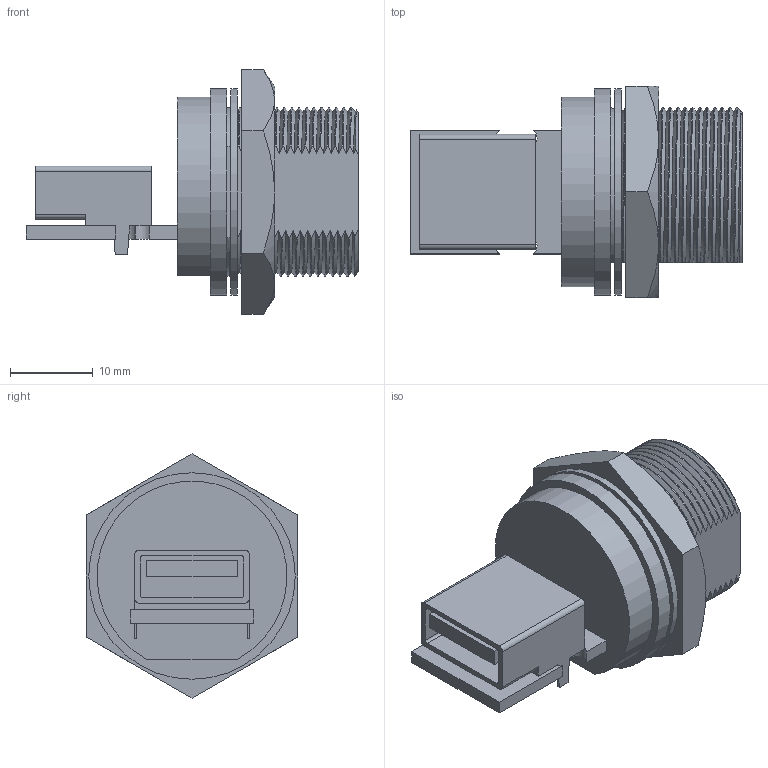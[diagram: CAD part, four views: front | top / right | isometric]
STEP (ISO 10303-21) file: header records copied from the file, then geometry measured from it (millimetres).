
FILE_DESCRIPTION(/* description */ (''),/* implementation_level */ '2;1');
FILE_NAME(/* name */ 'USB2AC-P3CSJ.stp',/* time_stamp */ '2026-04-08T16:57:22+09:00',/* author */ ('CS-05'),/* organization */ (''),/* preprocessor_version */ 'ST-DEVELOPER v19.2',/* originating_system */ 'Autodesk Inventor 2023',/* authorisation */ '');
FILE_SCHEMA (('AUTOMOTIVE_DESIGN { 1 0 10303 214 3 1 1 }'));
Length unit declared in the file: millimetre
Products named in the file (4): TB-012_USB2AC-P3CSJ_SD; TB-012_USB2AC-P3CSJ_SD1; TB-012_USB2AC-P3CSJ_SD2; TB-012_USB2AC-P3CSJ_SD3
Assembly tree (3 placements, depth 2):
  TB-012_USB2AC-P3CSJ_SD
    TB-012_USB2AC-P3CSJ_SD1
    TB-012_USB2AC-P3CSJ_SD2
    TB-012_USB2AC-P3CSJ_SD3
Bounding box: 40.2 x 25.6 x 29.56 mm (x, y, z)
Volume: 9465.1 mm3; surface area: 6685.6 mm2
Topology: 3 solids, 3 shells, 156 faces, 416 edges, 274 vertices
Faces by surface type: plane 69, cylinder 44, bspline 36, cone 7
Full cylindrical faces by diameter (mm): 20.45 x2, 25 x2
Entity records: 7633 total; most frequent: CARTESIAN_POINT 3906, ORIENTED_EDGE 832, DIRECTION 599, EDGE_CURVE 416, VERTEX_POINT 274, LINE 211, VECTOR 211, AXIS2_PLACEMENT_3D 194
